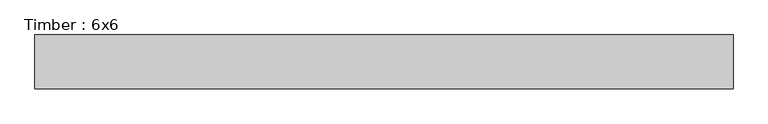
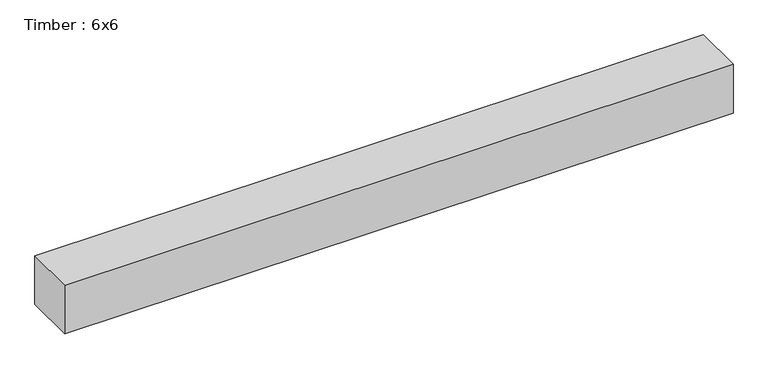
"""IFC4 building model written with IfcOpenShell, lengths in millimetres: beam geometry, Timber : 6x6."""

from ifc_helpers import new_model, si_unit, frame, origin, place, context, project, spatial, polyline, outline, extrude, source, transform, mapped, element, save


def timber_6x6_b68bce62(model_context):
    return source(origin(), model_context, "Body", "SweptSolid", [
        extrude(outline(polyline([(908.0499994, 69.85), (908.0499994, -69.85), (-908.0499994, -69.85), (-908.0499994, 69.85), (908.0499994, 69.85)])), frame((0.0, 0.0, -69.85), z_axis=(0.0, 0.0, 1.0), x_axis=(1.0, 0.0, 0.0)), (0.0, 0.0, 1.0), 139.7),
    ])


if __name__ == "__main__":
    model = new_model("IFC4")
    model_context = context("Model", 3, world=origin())
    ifc_project = project(units=[si_unit("LENGTHUNIT", "METRE", prefix="MILLI")], contexts=[model_context])
    site = spatial("IfcSite", under=ifc_project)
    building = spatial("IfcBuilding", under=site)
    placement = place(None, origin())
    timber_6x6_shape = timber_6x6_b68bce62(model_context)
    element("IfcBeam", 1, ObjectType="Timber : 6x6", at=placement, inside=building, context=model_context, shape_type="MappedRepresentation", body=[
        mapped(timber_6x6_shape, transform((0.0, 0.0, 0.0), x_axis=(1.0, 0.0, 0.0), y_axis=(0.0, 1.0, 0.0), z_axis=(0.0, 0.0, 1.0))),
    ])
    save(model, "model.ifc")
